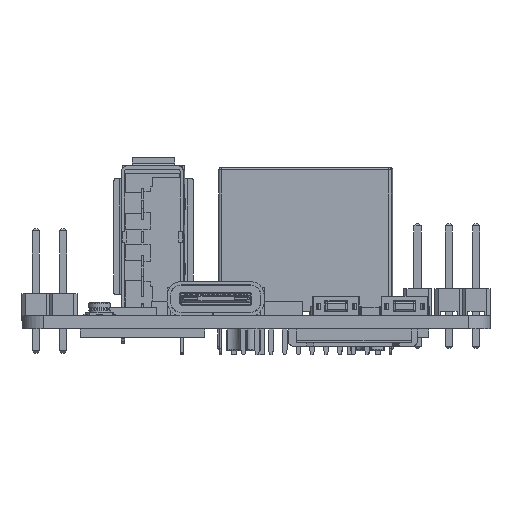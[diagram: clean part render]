
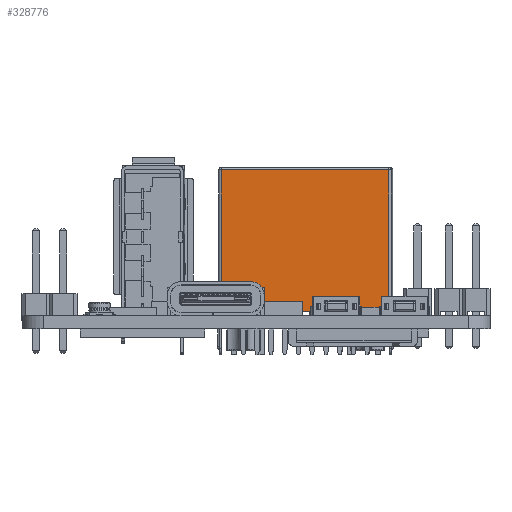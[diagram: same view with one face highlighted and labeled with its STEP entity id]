
A CAD part, left-side view. The second image highlights one B-rep face of the part: STEP entity #328776.
In plain terms, the highlighted planar face has unit normal (-1, 0.005, 0) as drawn and (0, 0, -1) by its records, which use the part's own axes.
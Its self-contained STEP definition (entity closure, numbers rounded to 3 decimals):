
#322872=DIRECTION('',(0.,1.,0.));
#322873=VECTOR('',#322872,13.07);
#322874=CARTESIAN_POINT('',(-7.735,-6.65,0.));
#322875=LINE('',#322874,#322873);
#322906=DIRECTION('',(-1.,0.,0.));
#322907=VECTOR('',#322906,15.47);
#322908=CARTESIAN_POINT('',(7.735,-6.65,0.));
#322909=LINE('',#322908,#322907);
#323181=DIRECTION('',(1.,0.,0.));
#323182=VECTOR('',#323181,15.47);
#323183=CARTESIAN_POINT('',(-7.735,6.42,0.));
#323184=LINE('',#323183,#323182);
#323296=DIRECTION('',(0.,-1.,0.));
#323297=VECTOR('',#323296,13.07);
#323298=CARTESIAN_POINT('',(7.735,6.42,0.));
#323299=LINE('',#323298,#323297);
#327430=CARTESIAN_POINT('',(-7.735,-6.65,0.));
#327431=CARTESIAN_POINT('',(-7.735,6.42,0.));
#327432=VERTEX_POINT('',#327430);
#327433=VERTEX_POINT('',#327431);
#327434=CARTESIAN_POINT('',(7.735,-6.65,0.));
#327435=VERTEX_POINT('',#327434);
#327436=CARTESIAN_POINT('',(7.735,6.42,0.));
#327437=VERTEX_POINT('',#327436);
#328761=CARTESIAN_POINT('',(0.,0.,0.));
#328762=DIRECTION('',(0.,0.,1.));
#328763=DIRECTION('',(1.,0.,0.));
#328764=AXIS2_PLACEMENT_3D('',#328761,#328762,#328763);
#328765=PLANE('',#328764);
#328767=ORIENTED_EDGE('',*,*,#328766,.F.);
#328769=ORIENTED_EDGE('',*,*,#328768,.F.);
#328771=ORIENTED_EDGE('',*,*,#328770,.F.);
#328773=ORIENTED_EDGE('',*,*,#328772,.F.);
#328774=EDGE_LOOP('',(#328767,#328769,#328771,#328773));
#328775=FACE_OUTER_BOUND('',#328774,.F.);
#328776=ADVANCED_FACE('',(#328775),#328765,.F.);
#328766=EDGE_CURVE('',#327432,#327433,#322875,.T.);
#328768=EDGE_CURVE('',#327435,#327432,#322909,.T.);
#328770=EDGE_CURVE('',#327437,#327435,#323299,.T.);
#328772=EDGE_CURVE('',#327433,#327437,#323184,.T.);
